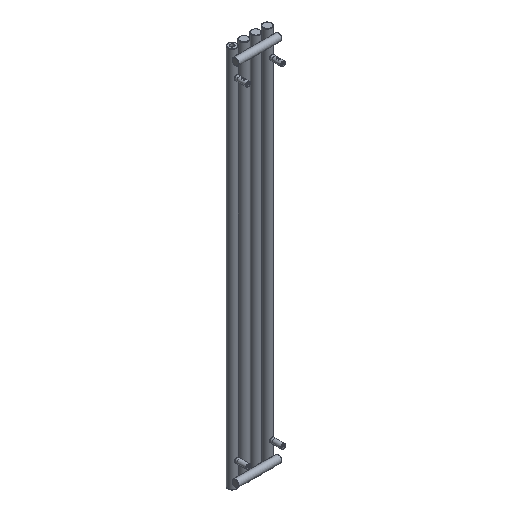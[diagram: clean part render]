
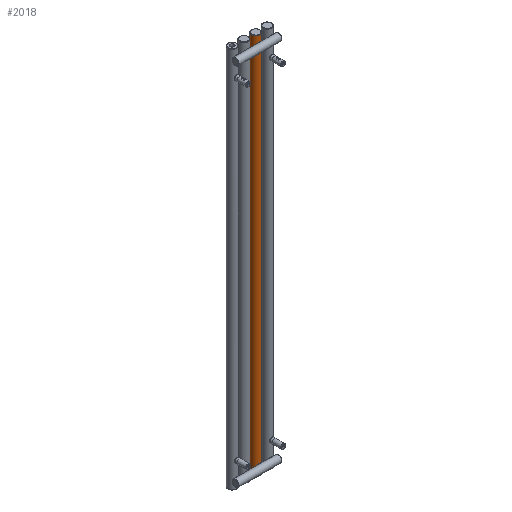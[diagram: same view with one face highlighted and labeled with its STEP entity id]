
A CAD part, isometric view. The second image highlights one B-rep face of the part: STEP entity #2018.
In plain terms, the highlighted cylindrical face has radius 20 mm (diameter 40 mm), a full revolution.
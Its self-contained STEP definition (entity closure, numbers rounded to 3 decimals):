
#165=FACE_BOUND('',#515,.T.);
#166=FACE_BOUND('',#516,.T.);
#193=LINE('',#3900,#267);
#267=VECTOR('',#2518,20.);
#341=CYLINDRICAL_SURFACE('',#2203,20.);
#375=FACE_OUTER_BOUND('',#514,.T.);
#514=EDGE_LOOP('',(#1424,#1425,#1426,#1427,#1428));
#515=EDGE_LOOP('',(#1429));
#516=EDGE_LOOP('',(#1430));
#672=B_SPLINE_CURVE_WITH_KNOTS('',3,(#3876,#3877,#3878,#3879,#3880,#3881,
#3882,#3883,#3884,#3885,#3886,#3887,#3888,#3889,#3890,#3891,#3892,#3893,
#3894),.UNSPECIFIED.,.T.,.F.,(4,1,1,1,1,1,1,1,1,1,1,1,1,1,1,1,4),(-5.132,
-4.765,-4.399,-3.91,-3.666,
-3.421,-3.177,-2.933,-2.444,
-2.199,-1.955,-1.711,-1.466,
-1.1,-0.733,-0.367,0.),
 .UNSPECIFIED.);
#673=B_SPLINE_CURVE_WITH_KNOTS('',3,(#3904,#3905,#3906,#3907,#3908,#3909,
#3910,#3911,#3912,#3913,#3914,#3915,#3916,#3917,#3918,#3919,#3920,#3921,
#3922,#3923,#3924,#3925,#3926,#3927,#3928),.UNSPECIFIED.,.T.,.F.,(4,1,1,
1,1,1,1,1,1,1,1,1,1,1,1,1,1,1,1,1,1,1,4),(-5.132,-4.765,
-4.399,-4.154,-3.91,-3.666,
-3.421,-3.177,-2.933,-2.688,
-2.444,-2.322,-2.199,-1.955,
-1.466,-1.1,-0.916,-0.825,
-0.779,-0.756,-0.733,-0.367,
0.),.UNSPECIFIED.);
#726=CIRCLE('',#2204,20.);
#727=CIRCLE('',#2205,20.);
#728=CIRCLE('',#2206,20.);
#888=VERTEX_POINT('',#3874);
#889=VERTEX_POINT('',#3896);
#890=VERTEX_POINT('',#3897);
#891=VERTEX_POINT('',#3899);
#892=VERTEX_POINT('',#3903);
#1104=EDGE_CURVE('',#888,#888,#672,.T.);
#1105=EDGE_CURVE('',#889,#890,#726,.T.);
#1106=EDGE_CURVE('',#889,#891,#193,.T.);
#1107=EDGE_CURVE('',#891,#891,#727,.T.);
#1108=EDGE_CURVE('',#890,#889,#728,.T.);
#1109=EDGE_CURVE('',#892,#892,#673,.T.);
#1424=ORIENTED_EDGE('',*,*,#1105,.F.);
#1425=ORIENTED_EDGE('',*,*,#1106,.T.);
#1426=ORIENTED_EDGE('',*,*,#1107,.F.);
#1427=ORIENTED_EDGE('',*,*,#1106,.F.);
#1428=ORIENTED_EDGE('',*,*,#1108,.F.);
#1429=ORIENTED_EDGE('',*,*,#1109,.F.);
#1430=ORIENTED_EDGE('',*,*,#1104,.F.);
#2018=ADVANCED_FACE('',(#375,#165,#166),#341,.T.);
#2203=AXIS2_PLACEMENT_3D('',#3895,#2514,#2515);
#2204=AXIS2_PLACEMENT_3D('',#3898,#2516,#2517);
#2205=AXIS2_PLACEMENT_3D('',#3901,#2519,#2520);
#2206=AXIS2_PLACEMENT_3D('',#3902,#2521,#2522);
#2514=DIRECTION('center_axis',(0.,0.,1.));
#2515=DIRECTION('ref_axis',(-1.,0.,0.));
#2516=DIRECTION('center_axis',(0.,0.,1.));
#2517=DIRECTION('ref_axis',(-1.,0.,0.));
#2518=DIRECTION('',(0.,0.,-1.));
#2519=DIRECTION('center_axis',(0.,0.,-1.));
#2520=DIRECTION('ref_axis',(-1.,0.,0.));
#2521=DIRECTION('center_axis',(0.,0.,1.));
#2522=DIRECTION('ref_axis',(-1.,0.,0.));
#3874=CARTESIAN_POINT('',(-55.,-20.,50.1));
#3876=CARTESIAN_POINT('Ctrl Pts',(-55.,-20.,50.1));
#3877=CARTESIAN_POINT('Ctrl Pts',(-56.611,-20.,50.1));
#3878=CARTESIAN_POINT('Ctrl Pts',(-59.83,-19.61,49.58));
#3879=CARTESIAN_POINT('Ctrl Pts',(-64.319,-17.858,46.75));
#3880=CARTESIAN_POINT('Ctrl Pts',(-66.21,-16.549,41.99));
#3881=CARTESIAN_POINT('Ctrl Pts',(-65.866,-16.799,37.471));
#3882=CARTESIAN_POINT('Ctrl Pts',(-64.65,-17.552,34.432));
#3883=CARTESIAN_POINT('Ctrl Pts',(-62.534,-18.591,32.08));
#3884=CARTESIAN_POINT('Ctrl Pts',(-58.836,-19.82,30.088));
#3885=CARTESIAN_POINT('Ctrl Pts',(-54.418,-20.203,29.641));
#3886=CARTESIAN_POINT('Ctrl Pts',(-50.239,-19.503,30.58));
#3887=CARTESIAN_POINT('Ctrl Pts',(-47.466,-18.592,32.084));
#3888=CARTESIAN_POINT('Ctrl Pts',(-45.351,-17.554,34.428));
#3889=CARTESIAN_POINT('Ctrl Pts',(-43.927,-16.661,37.981));
#3890=CARTESIAN_POINT('Ctrl Pts',(-43.922,-16.659,42.598));
#3891=CARTESIAN_POINT('Ctrl Pts',(-46.137,-18.052,47.027));
#3892=CARTESIAN_POINT('Ctrl Pts',(-50.165,-19.6,49.585));
#3893=CARTESIAN_POINT('Ctrl Pts',(-53.389,-20.,50.1));
#3894=CARTESIAN_POINT('Ctrl Pts',(-55.,-20.,50.1));
#3895=CARTESIAN_POINT('Origin',(-55.,0.,0.));
#3896=CARTESIAN_POINT('',(-35.,0.,1798.));
#3897=CARTESIAN_POINT('',(-75.,0.,1798.));
#3898=CARTESIAN_POINT('Origin',(-55.,0.,1798.));
#3899=CARTESIAN_POINT('',(-35.,0.,2.));
#3900=CARTESIAN_POINT('',(-35.,0.,0.));
#3901=CARTESIAN_POINT('Origin',(-55.,0.,2.));
#3902=CARTESIAN_POINT('Origin',(-55.,0.,1798.));
#3903=CARTESIAN_POINT('',(-55.,-20.,1770.1));
#3904=CARTESIAN_POINT('Ctrl Pts',(-55.,-20.,1770.1));
#3905=CARTESIAN_POINT('Ctrl Pts',(-56.611,-20.,1770.1));
#3906=CARTESIAN_POINT('Ctrl Pts',(-59.838,-19.598,1769.588));
#3907=CARTESIAN_POINT('Ctrl Pts',(-63.412,-18.224,1767.307));
#3908=CARTESIAN_POINT('Ctrl Pts',(-65.38,-17.114,1764.116));
#3909=CARTESIAN_POINT('Ctrl Pts',(-66.115,-16.625,1760.853));
#3910=CARTESIAN_POINT('Ctrl Pts',(-65.87,-16.793,1757.475));
#3911=CARTESIAN_POINT('Ctrl Pts',(-64.649,-17.553,1754.429));
#3912=CARTESIAN_POINT('Ctrl Pts',(-62.534,-18.591,1752.084));
#3913=CARTESIAN_POINT('Ctrl Pts',(-59.761,-19.507,1750.583));
#3914=CARTESIAN_POINT('Ctrl Pts',(-56.624,-20.021,1749.87));
#3915=CARTESIAN_POINT('Ctrl Pts',(-53.917,-20.022,1749.871));
#3916=CARTESIAN_POINT('Ctrl Pts',(-51.806,-19.764,1750.226));
#3917=CARTESIAN_POINT('Ctrl Pts',(-49.778,-19.355,1750.836));
#3918=CARTESIAN_POINT('Ctrl Pts',(-46.524,-18.281,1752.559));
#3919=CARTESIAN_POINT('Ctrl Pts',(-43.908,-16.656,1756.803));
#3920=CARTESIAN_POINT('Ctrl Pts',(-43.931,-16.663,1761.738));
#3921=CARTESIAN_POINT('Ctrl Pts',(-44.887,-17.265,1764.433));
#3922=CARTESIAN_POINT('Ctrl Pts',(-45.595,-17.654,1765.634));
#3923=CARTESIAN_POINT('Ctrl Pts',(-46.001,-17.862,1766.19));
#3924=CARTESIAN_POINT('Ctrl Pts',(-46.248,-17.984,1766.495));
#3925=CARTESIAN_POINT('Ctrl Pts',(-47.399,-18.537,1767.826));
#3926=CARTESIAN_POINT('Ctrl Pts',(-50.162,-19.595,1769.586));
#3927=CARTESIAN_POINT('Ctrl Pts',(-53.389,-20.,1770.1));
#3928=CARTESIAN_POINT('Ctrl Pts',(-55.,-20.,1770.1));
